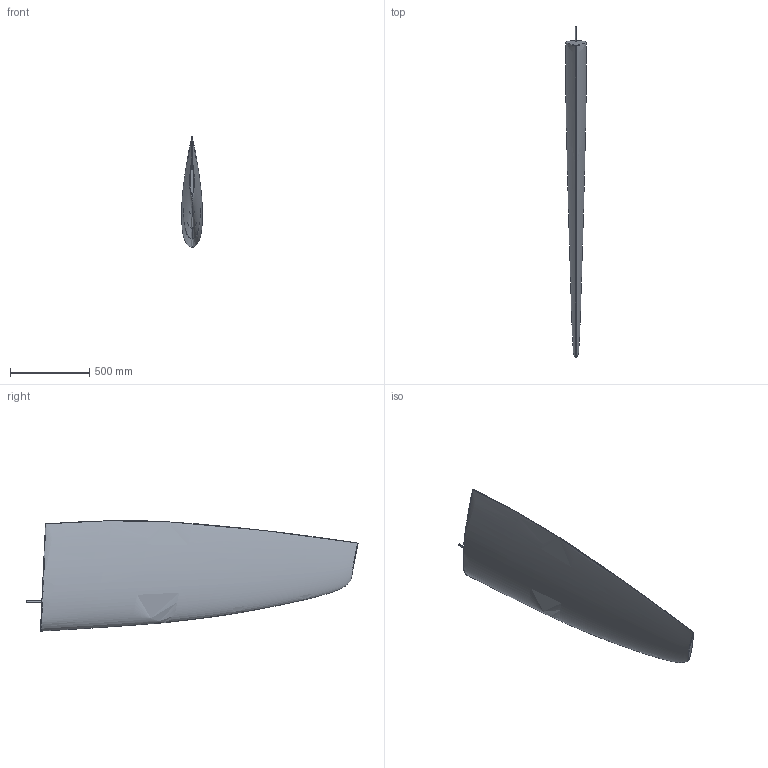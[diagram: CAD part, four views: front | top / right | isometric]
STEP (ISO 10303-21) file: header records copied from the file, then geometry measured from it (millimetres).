
FILE_DESCRIPTION (( 'STEP AP203' ), '1' );
FILE_NAME ('Rudderblade RUD46 for 42 to 50ft.STEP', '2008-09-04T11:41:35', ( 'Klaus Jeppsen' ), ( 'Jefa' ), 'SwSTEP 2.0', 'SolidWorks 2008', '' );
FILE_SCHEMA (( 'CONFIG_CONTROL_DESIGN' ));
Length unit declared in the file: millimetre
Products named in the file (1): Rudderblade RUD46 for 42 to 50ft
Bounding box: 132.42 x 2098.83 x 696.97 mm (x, y, z)
Volume: 76362117.6 mm3; surface area: 2342053.1 mm2
Topology: 1 solids, 1 shells, 14 faces, 29 edges, 17 vertices
Faces by surface type: bspline 8, plane 4, cylinder 2
Entity records: 11076 total; most frequent: CARTESIAN_POINT 10777, ORIENTED_EDGE 58, EDGE_CURVE 29, DIRECTION 22, B_SPLINE_CURVE_WITH_KNOTS 21, VERTEX_POINT 17, ADVANCED_FACE 14, EDGE_LOOP 14
